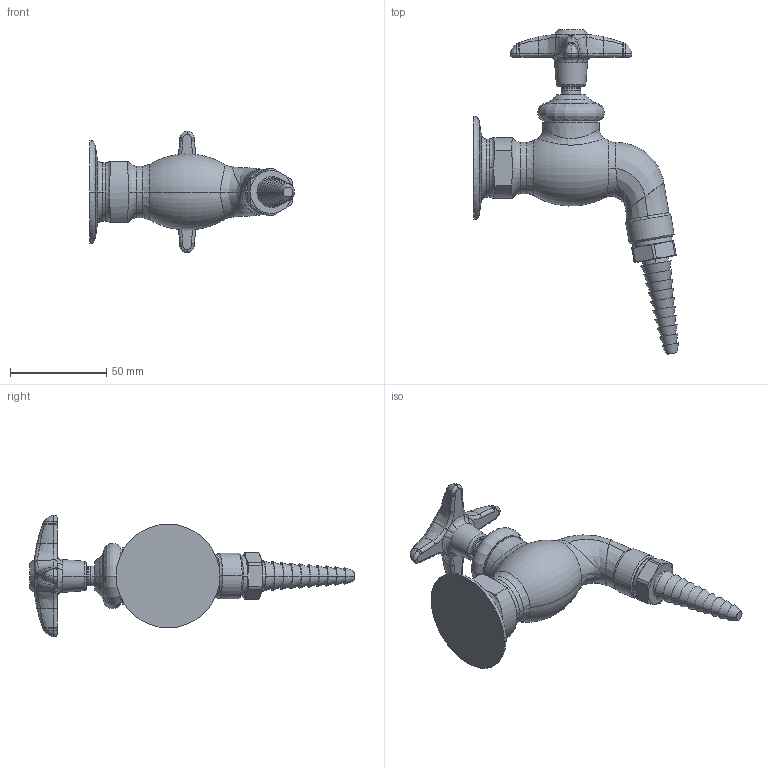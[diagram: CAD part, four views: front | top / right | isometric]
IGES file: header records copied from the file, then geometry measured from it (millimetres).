
Start section:  PTC IGES file: LWV3-C14.igs
Global section: file name: LWV3-C14.igs; native system: Creo Parametric by PTC Inc.; preprocessor: 2014500; author: usch_engrender; organization: Unknown; date: 20150910.122036; units: inch
Bounding box: 106.74 x 169.01 x 63.42 mm (x, y, z)
Volume: 128953.3 mm3; surface area: 25622.5 mm2
Topology: 1 solids, 2 shells, 289 faces, 636 edges, 369 vertices
Faces by surface type: bspline 181, revolution 108
